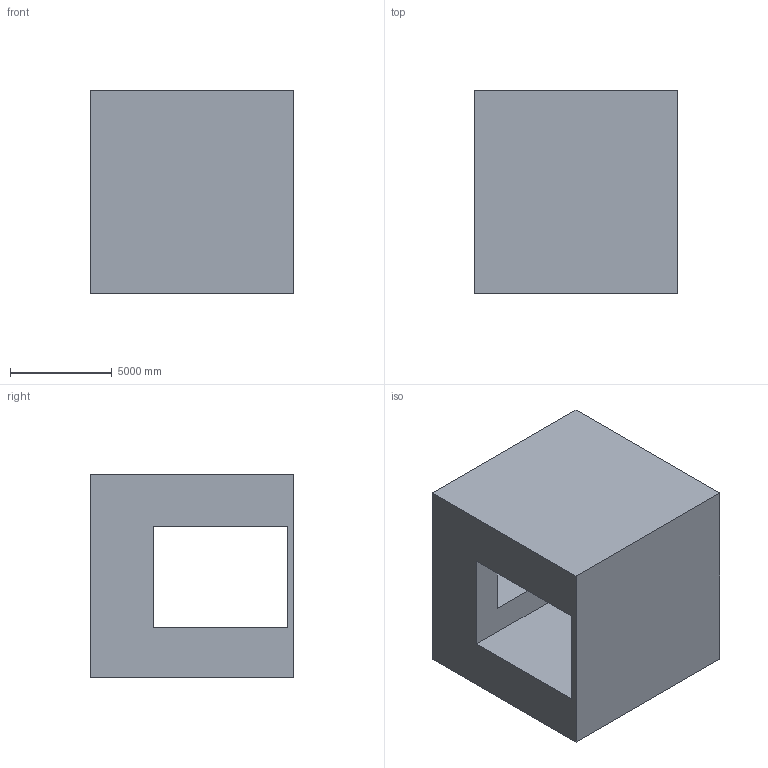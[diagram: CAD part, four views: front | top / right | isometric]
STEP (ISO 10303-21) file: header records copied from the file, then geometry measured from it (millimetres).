
FILE_DESCRIPTION (( 'STEP AP203' ), '1' );
FILE_NAME ('2.STEP', '2022-09-01T11:34:02', ( 'user' ), ( '' ), 'SwSTEP 2.0', 'SolidWorks 2021', '' );
FILE_SCHEMA (( 'CONFIG_CONTROL_DESIGN' ));
Length unit declared in the file: centimetre
Products named in the file (1): 2
Bounding box: 10000 x 10000 x 10000 mm (x, y, z)
Volume: 604765768225.3 mm3; surface area: 784747156 mm2
Topology: 1 solids, 1 shells, 14 faces, 36 edges, 24 vertices
Faces by surface type: plane 14
Entity records: 505 total; most frequent: CARTESIAN_POINT 75, ORIENTED_EDGE 72, DIRECTION 66, VECTOR 36, EDGE_CURVE 36, LINE 36, VERTEX_POINT 24, EDGE_LOOP 18
